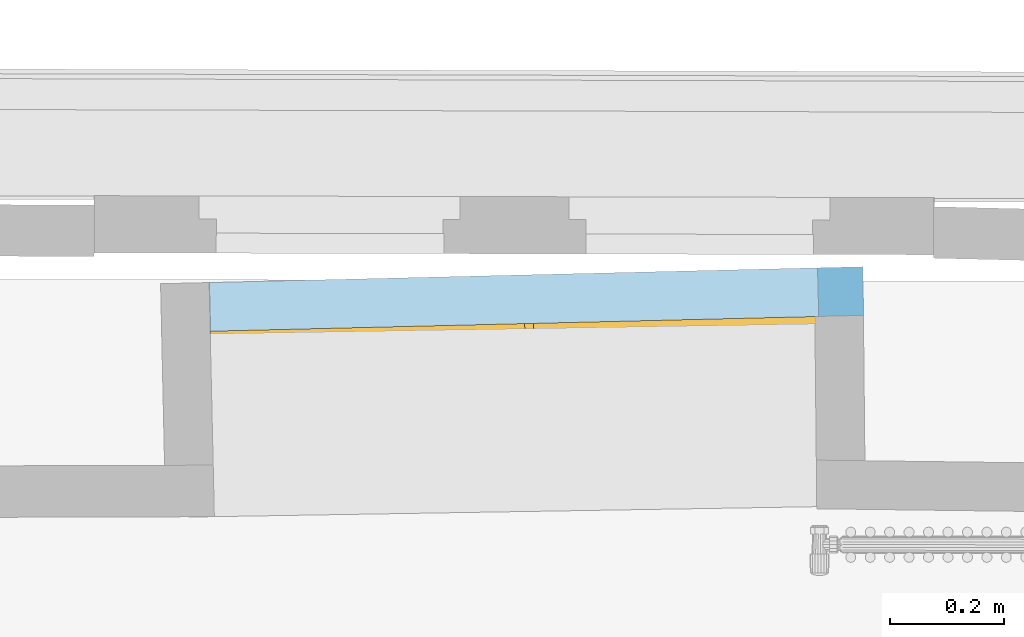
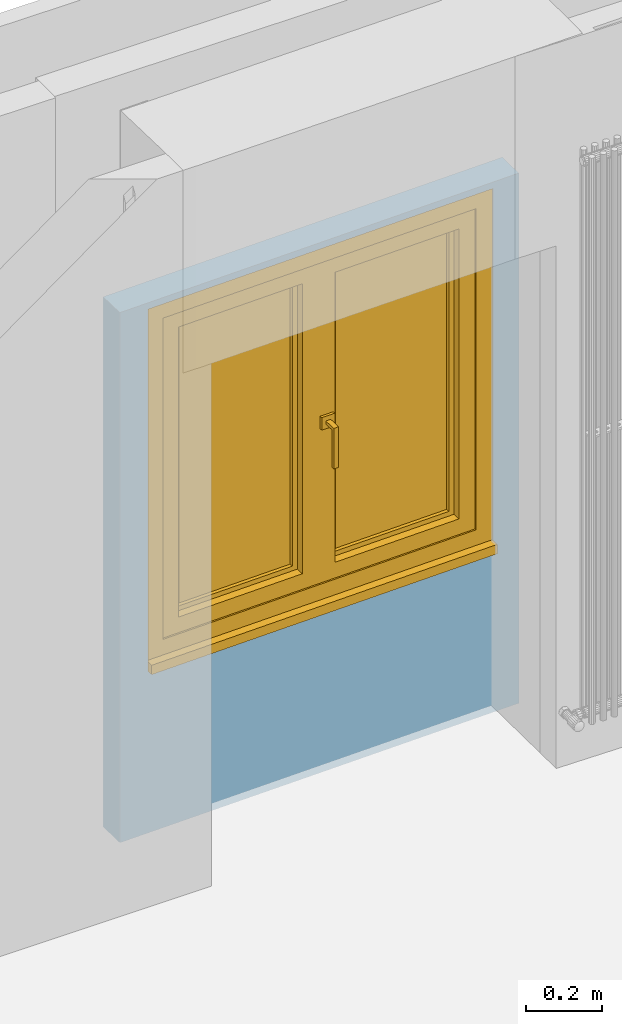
# One storey, part 62 of 72: 1 window, 1 opening, plus 1 element that does not belong to this part.
"""IFC2X3 building model written with IfcOpenShell, lengths in centimetres."""

from ifc_helpers import new_model, entity, si_unit, converted_unit, direction, frame, origin, origin_with_axes, place, context, subcontext, project, spatial, polyline, outline, extrude, faceted_brep, shape, material, material_list, layer, layer_set, layer_usage, type_object, element, fill, save


model = new_model("IFC2X3")

# Units and contexts
model_context = context("Model", 3, precision=0.0001, world=origin(), true_north=direction((0.225632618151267, 0.974212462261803, 0.0)))
body_context = subcontext(model_context, "Body", "Model", "MODEL_VIEW")
footprint_context = subcontext(model_context, "FootPrint", "Model", "MODEL_VIEW")
profile_context = subcontext(model_context, "Profile", "Model", "MODEL_VIEW")
ifc_project = project(units=[si_unit("LENGTHUNIT", "METRE", prefix="CENTI"), si_unit("AREAUNIT", "SQUARE_METRE", prefix="CENTI"), si_unit("VOLUMEUNIT", "CUBIC_METRE", prefix="CENTI"), converted_unit("PLANEANGLEUNIT", "DEGREE", entity("IfcRatioMeasure", 0.0174532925), si_unit("PLANEANGLEUNIT", "RADIAN"), dimensions=[0, 0, 0, 0, 0, 0, 0])], contexts=[model_context])

# Site, building, storey
site_placement = place(None, origin_with_axes())
site = spatial("IfcSite", under=ifc_project, at=site_placement, Name="Default Site", CompositionType="ELEMENT")
building_placement = place(site_placement, origin_with_axes())
building = spatial("IfcBuilding", under=site, at=building_placement, Name="Default Building", CompositionType="ELEMENT")
storey_placement = place(building_placement, frame((0.0, 0.0, 853.910374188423), z_axis=(0.0, 0.0, 1.0), x_axis=(1.0, 0.0, 0.0)))
storey = spatial("IfcBuildingStorey", under=building, at=storey_placement, Name="Niveau 2", CompositionType="ELEMENT", Elevation=853.910374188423)

# Wall, opening, window
ifc_material_1 = material(Name="<aucun>")
ifc_layer = layer(ifc_material_1, 8.5)
ifc_layer_set = layer_set([ifc_layer], Name="default")
ifc_layer_usage = layer_usage(ifc_layer_set, "AXIS2", "POSITIVE", -4.25)
wall_type = type_object("IfcWallType", Name="default 85", PredefinedType="NOTDEFINED", material=ifc_layer_set)
wall_placement = place(storey_placement, frame((33.8055025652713, 591.426042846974, 1.4210854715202e-12), z_axis=(0.0, 0.0, 1.0), x_axis=(0.999706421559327, 0.024229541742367, 0.0)))
wall = element("IfcWallStandardCase", 1, at=wall_placement, inside=storey, type_object=wall_type, material=ifc_layer_usage, Name="Enveloppe 163843", context=body_context, shape_type="SweptSolid", body=[
    extrude(outline(polyline([(1.34562991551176, 4.24999999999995), (1.32729831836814, -4.24999999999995), (124.049128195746, -4.25000000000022), (124.168477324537, 4.24999999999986), (1.34562991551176, 4.24999999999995)])), frame((0.0, 0.0, -8.88178419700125e-13), z_axis=(0.0, 0.0, 1.0), x_axis=(1.0, 0.0, 0.0)), (0.0, 0.0, 1.0), 170.0),
])
opening_placement = place(wall_placement, frame((9.89149371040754, 0.0, 54.9999999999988), z_axis=(0.0, 0.0, 1.0), x_axis=(-1.0, -4.16333634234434e-17, 0.0)))
cartesian_point_1 = entity("IfcCartesianPoint", [0.0, 8.88178419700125e-14, 113.0])
cartesian_point_2 = entity("IfcCartesianPoint", [-106.334699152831, -4.24999999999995])
opening = element("IfcOpeningElement", 2, at=opening_placement, cuts=wall, Name="4294966432_11", ObjectType="Opening", shapes=[
    shape(body_context, "Body", "SweptSolid", [extrude(outline(polyline([(0.0, 113.0), (0.0, -2.99999999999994), (106.334699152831, -2.99999999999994), (106.334699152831, 113.0), (0.0, 113.0)])), frame((0.0, -14.25, 0.0), z_axis=(0.0, 1.0, 0.0), x_axis=(-1.0, 0.0, 0.0)), (0.0, 0.0, 1.0), 28.5)]),
    shape(profile_context, "Profile", "GeometricCurveSet", [entity("IfcGeometricCurveSet", [entity("IfcPolyline", [cartesian_point_1, entity("IfcCartesianPoint", [0.0, 8.88178419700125e-14, 0.0]), entity("IfcCartesianPoint", [-106.334699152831, 8.88178419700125e-14, 0.0]), entity("IfcCartesianPoint", [-106.334699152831, 8.88178419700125e-14, 113.0]), cartesian_point_1])])]),
    shape(footprint_context, "FootPrint", "GeometricCurveSet", [entity("IfcGeometricCurveSet", [entity("IfcPolyline", [cartesian_point_2, entity("IfcCartesianPoint", [0.0, -4.24999999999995]), entity("IfcCartesianPoint", [0.0, 4.25000000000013]), entity("IfcCartesianPoint", [-106.334699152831, 4.25000000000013]), cartesian_point_2])])]),
])
ifc_material_2 = material(Name="Transparent")
ifc_material_3 = material(Name="Jaune 255-255-0")
ifc_material_4 = material(Name="Brèche oniciata")
ifc_material_5 = material(Name="Aluminium satiné")
ifc_material_list = material_list([ifc_material_2, ifc_material_3, ifc_material_4, ifc_material_5])
window_style = type_object("IfcWindowStyle", Name="FN[R] 2VB[1V] MM", ConstructionType="NOTDEFINED", OperationType="DOUBLE_PANEL_VERTICAL", ParameterTakesPrecedence=True, Sizeable=False, material=ifc_material_list)
window_placement = place(opening_placement, frame((-106.334699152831, -4.25, 0.0), z_axis=(0.0, 0.0, 1.0), x_axis=(1.0, 0.0, 0.0)))
window = element("IfcWindow", 3, at=window_placement, inside=storey, type_object=window_style, material=ifc_material_list, Name="Fenêtre 163845", OverallHeight=113.0, OverallWidth=106.334699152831, context=body_context, shape_type="Brep", body=[
    faceted_brep([(3.1462128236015e-06, -3.30878435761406e-06, -4.31537632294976e-06), (106.334698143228, 2.2949719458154e-06, -4.31537632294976e-06), (106.33470077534, 8.5000219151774, -4.31537632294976e-06), (106.334697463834, 10.4999873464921, -4.31537632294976e-06), (-3.4918960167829e-06, 10.4999818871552, -4.31537632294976e-06), (-3.15974784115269e-06, 8.50001652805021, -4.31537632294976e-06), (-3.15974784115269e-06, 8.50001652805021, -2.99997761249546), (-3.4918960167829e-06, 10.4999818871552, -2.99997761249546), (106.334697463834, 10.4999873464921, -2.99997761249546), (106.33470077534, 8.5000219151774, -2.99997761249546), (106.334698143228, 2.2949719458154e-06, -2.99997761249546), (3.1462128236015e-06, -3.30878435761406e-06, -2.99997761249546), (-3.15786633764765e-06, 10.4999818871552, -4.31537632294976e-06), (-3.15786633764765e-06, 10.4999818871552, -2.99997761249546), (106.334697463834, 10.4999817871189, -4.31537632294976e-06), (106.334697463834, 10.4999817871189, -2.99997761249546), (106.334697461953, 8.50002191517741, -4.31537632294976e-06), (106.334697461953, 8.50002191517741, -2.99997761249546), (106.334700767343, 2.29497194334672e-06, -4.31537632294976e-06), (106.334700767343, 2.29497194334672e-06, -2.99997761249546), (3.14621282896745e-06, 2.39500822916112e-06, -4.31537632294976e-06), (3.14621282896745e-06, 2.39500822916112e-06, -2.99997761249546), (3.15420937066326e-06, 8.50001652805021, -4.31537632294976e-06), (3.15420937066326e-06, 8.50001652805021, -2.99997761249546)], [[[0, 1, 2, 3, 4, 5]], [[6, 7, 8, 9, 10, 11]], [[5, 12, 13, 6]], [[4, 14, 15, 7]], [[3, 16, 17, 8]], [[2, 18, 19, 9]], [[1, 20, 21, 10]], [[0, 22, 23, 11]]]),
    faceted_brep([(101.334700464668, 8.9407060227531e-08, 108.000004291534), (101.334700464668, 7.99999991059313, 108.000004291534), (101.334700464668, 7.99999991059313, 5.00000007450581), (101.334700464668, 8.9407060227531e-08, 5.00000007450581), (106.334698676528, 7.99999991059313, 112.999999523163), (106.334698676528, 7.99999991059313, 1.77635683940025e-13), (106.334698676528, 8.9407060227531e-08, 112.999999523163), (106.334698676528, 8.9407060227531e-08, 1.77635683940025e-13), (101.334700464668, 8.94070602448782e-08, 108.000004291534), (101.334700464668, 8.94070602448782e-08, 5.00000007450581), (4.99999868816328, 7.99999991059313, 5.00000007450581), (4.99999868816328, 8.9407060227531e-08, 5.00000007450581), (4.76302630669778e-07, 7.99999991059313, 1.77635683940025e-13), (4.76302630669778e-07, 8.9407060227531e-08, 1.77635683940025e-13), (4.99999868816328, 8.94070605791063e-08, 5.00000007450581), (4.76302630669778e-07, 8.94070605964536e-08, 1.77635683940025e-13), (4.99999868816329, 7.99999991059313, 108.000004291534), (4.99999868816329, 8.9407060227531e-08, 108.000004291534), (4.76302630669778e-07, 7.99999991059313, 112.999999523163), (4.99999868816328, 7.99999991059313, 108.000004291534), (4.76302630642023e-07, 8.9407060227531e-08, 1.77635683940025e-13), (4.76302630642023e-07, 8.9407060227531e-08, 112.999999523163), (4.99999868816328, 8.94070602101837e-08, 5.00000007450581), (4.99999868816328, 8.94070602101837e-08, 108.000004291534), (4.76302630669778e-07, 8.9407060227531e-08, 112.999999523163), (4.99999868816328, 8.9407060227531e-08, 108.000004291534), (101.334700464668, 8.94070598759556e-08, 108.000004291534), (106.334698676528, 8.94070598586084e-08, 112.999999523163)], [[[0, 1, 2, 3]], [[1, 4, 5, 2]], [[4, 6, 7, 5]], [[6, 8, 9, 7]], [[3, 2, 10, 11]], [[2, 5, 12, 10]], [[5, 7, 13, 12]], [[7, 9, 14, 15]], [[11, 10, 16, 17]], [[10, 12, 18, 19]], [[12, 20, 21, 18]], [[13, 22, 23, 24]], [[25, 19, 1, 0]], [[19, 18, 4, 1]], [[18, 24, 6, 4]], [[24, 23, 26, 27]]]),
    faceted_brep([(97.3346983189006, 0.499999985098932, 103.999996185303), (96.3346988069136, 1.4999994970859, 102.999997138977), (96.3346988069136, 1.49999949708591, 10.0000001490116), (97.3346983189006, 0.49999998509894, 9.00000035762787), (96.3346992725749, 1.49999996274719, 102.999997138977), (96.3346992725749, 7.50000001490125, 102.999997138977), (96.3346992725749, 7.50000001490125, 10.0000001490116), (96.3346992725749, 1.49999996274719, 10.0000001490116), (101.334700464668, 7.50000001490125, 108.000004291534), (101.334700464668, 7.50000001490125, 5.00000007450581), (101.334700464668, 0.499999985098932, 108.000004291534), (101.334700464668, 0.499999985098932, 5.00000007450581), (97.3346983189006, 0.499999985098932, 9.00000035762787), (96.3346992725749, 1.49999986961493, 10.0000002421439), (58.1673496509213, 1.49999986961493, 10.0000002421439), (57.1673494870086, 0.499999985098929, 9.00000035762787), (58.1673496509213, 7.50000001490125, 10.0000001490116), (58.1673496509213, 1.49999996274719, 10.0000001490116), (53.1673495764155, 7.50000001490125, 5.00000007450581), (53.1673495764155, 0.499999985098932, 5.00000007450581), (57.1673494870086, 0.499999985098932, 9.00000035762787), (58.1673495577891, 1.50000005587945, 10.0000001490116), (58.1673495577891, 1.50000005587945, 102.999997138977), (57.1673494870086, 0.499999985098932, 103.999996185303), (58.1673496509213, 7.50000001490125, 102.999997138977), (58.1673496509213, 1.49999996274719, 102.999997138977), (53.1673495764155, 7.50000001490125, 108.000004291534), (53.1673495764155, 0.499999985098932, 108.000004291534), (58.1673496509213, 1.4999994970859, 102.999996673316), (96.3346992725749, 1.4999994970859, 102.999996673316)], [[[0, 1, 2, 3]], [[4, 5, 6, 7]], [[5, 8, 9, 6]], [[8, 10, 11, 9]], [[10, 0, 12, 11]], [[12, 13, 14, 15]], [[7, 6, 16, 17]], [[6, 9, 18, 16]], [[9, 11, 19, 18]], [[11, 12, 20, 19]], [[20, 21, 22, 23]], [[17, 16, 24, 25]], [[16, 18, 26, 24]], [[18, 19, 27, 26]], [[19, 20, 23, 27]], [[23, 28, 29, 0]], [[25, 24, 5, 4]], [[24, 26, 8, 5]], [[26, 27, 10, 8]], [[27, 23, 0, 10]]]),
    faceted_brep([(94.8346977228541, 3.00000002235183, 101.499998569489), (94.3346979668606, 3.49999977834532, 100.999999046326), (94.3346979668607, 3.49999977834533, 11.9999997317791), (94.8346977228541, 3.00000002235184, 11.5000002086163), (94.3346981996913, 3.50000001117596, 100.999999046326), (94.3346981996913, 4.49999998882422, 100.999999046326), (94.3346981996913, 4.49999998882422, 11.9999997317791), (94.3346981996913, 3.50000001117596, 11.9999997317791), (94.8346979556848, 4.99999974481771, 101.499998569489), (94.8346979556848, 4.9999997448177, 11.5000002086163), (94.3346981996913, 4.49999998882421, 11.9999997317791), (94.8346977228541, 4.99999997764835, 101.499998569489), (96.3346992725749, 4.99999997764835, 102.999997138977), (96.3346992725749, 4.99999997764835, 10.0000001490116), (94.8346977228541, 4.99999997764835, 11.5000002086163), (96.3346992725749, 3.00000002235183, 102.999997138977), (96.3346992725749, 3.00000002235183, 10.0000001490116), (94.8346977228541, 3.00000002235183, 11.5000002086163), (94.3346981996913, 3.49999977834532, 11.9999999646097), (60.1673496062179, 3.49999977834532, 11.9999999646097), (59.667349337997, 3.00000002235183, 11.5000002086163), (60.1673496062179, 4.49999998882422, 11.9999997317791), (60.1673496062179, 3.50000001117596, 11.9999997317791), (94.8346977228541, 4.99999974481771, 11.4999999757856), (59.667349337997, 4.99999974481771, 11.4999999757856), (58.1673496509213, 4.99999997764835, 10.0000001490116), (59.667349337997, 4.99999997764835, 11.5000002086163), (58.1673496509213, 3.00000002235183, 10.0000001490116), (60.1673494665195, 3.50000015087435, 11.9999997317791), (60.1673494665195, 3.50000015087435, 100.999999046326), (59.667349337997, 3.00000002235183, 101.499998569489), (60.1673496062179, 4.49999998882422, 100.999999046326), (60.1673496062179, 3.50000001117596, 100.999999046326), (59.6673494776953, 5.00000011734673, 11.5000002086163), (59.6673494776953, 5.00000011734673, 101.499998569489), (58.1673496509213, 4.99999997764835, 102.999997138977), (59.667349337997, 4.99999997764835, 101.499998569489), (58.1673496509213, 3.00000002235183, 102.999997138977), (60.1673496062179, 3.49999977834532, 100.999998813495), (94.3346981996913, 3.49999977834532, 100.999998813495), (59.667349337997, 4.99999974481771, 101.499998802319), (94.8346977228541, 4.9999997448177, 101.499998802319), (94.3346981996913, 4.49999998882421, 100.999999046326)], [[[0, 1, 2, 3]], [[4, 5, 6, 7]], [[5, 8, 9, 10]], [[11, 12, 13, 14]], [[12, 15, 16, 13]], [[15, 0, 17, 16]], [[17, 18, 19, 20]], [[7, 6, 21, 22]], [[6, 23, 24, 21]], [[14, 13, 25, 26]], [[13, 16, 27, 25]], [[16, 17, 20, 27]], [[20, 28, 29, 30]], [[22, 21, 31, 32]], [[21, 33, 34, 31]], [[26, 25, 35, 36]], [[25, 27, 37, 35]], [[27, 20, 30, 37]], [[30, 38, 39, 0]], [[32, 31, 5, 4]], [[31, 40, 41, 42]], [[36, 35, 12, 11]], [[35, 37, 15, 12]], [[37, 30, 0, 15]]]),
    faceted_brep([(60.1673496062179, 3.50000001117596, 100.999999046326), (60.1673496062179, 3.50000001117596, 11.9999997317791), (94.3346981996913, 3.50000001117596, 11.9999997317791), (94.3346981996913, 3.50000001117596, 100.999999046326), (94.3346981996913, 4.49999998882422, 100.999999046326), (94.3346981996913, 4.49999998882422, 11.9999997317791), (60.1673496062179, 4.49999998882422, 11.9999997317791), (60.1673496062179, 4.49999998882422, 100.999999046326), (60.1673496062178, 3.50000001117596, 100.999999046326), (60.1673496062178, 4.49999998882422, 100.999999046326)], [[[0, 1, 2, 3]], [[4, 5, 6, 7]], [[3, 2, 5, 4]], [[2, 1, 6, 5]], [[1, 8, 9, 6]], [[0, 3, 4, 7]]]),
    faceted_brep([(49.1673496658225, 0.499999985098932, 103.999996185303), (48.167349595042, 1.50000005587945, 102.999997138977), (48.167349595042, 1.50000005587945, 10.0000001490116), (49.1673496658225, 0.49999998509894, 9.00000035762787), (48.1673495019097, 1.49999996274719, 102.999997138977), (48.1673495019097, 7.50000001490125, 102.999997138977), (48.1673495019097, 7.50000001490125, 10.0000001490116), (48.1673495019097, 1.49999996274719, 10.0000001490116), (53.1673495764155, 7.50000001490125, 108.000004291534), (53.1673495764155, 7.50000001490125, 5.00000007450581), (53.1673495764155, 0.499999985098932, 108.000004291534), (53.1673495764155, 0.499999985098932, 5.00000007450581), (49.1673496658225, 0.499999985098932, 9.00000035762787), (48.1673495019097, 1.49999986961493, 10.0000002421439), (9.99999988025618, 1.49999986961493, 10.0000002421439), (9.00000083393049, 0.499999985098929, 9.00000035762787), (9.99999988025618, 7.50000001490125, 10.0000001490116), (9.99999988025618, 1.49999996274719, 10.0000001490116), (4.99999868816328, 7.50000001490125, 5.00000007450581), (4.99999868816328, 0.499999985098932, 5.00000007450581), (9.00000083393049, 0.499999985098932, 9.00000035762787), (10.0000003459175, 1.4999994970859, 10.0000001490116), (10.0000003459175, 1.4999994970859, 102.999997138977), (9.0000008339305, 0.499999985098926, 103.999996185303), (9.99999988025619, 7.50000001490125, 102.999997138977), (9.99999988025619, 1.49999996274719, 102.999997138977), (4.99999868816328, 7.50000001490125, 108.000004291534), (9.99999988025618, 7.50000001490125, 102.999997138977), (4.99999868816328, 0.499999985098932, 108.000004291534), (9.00000083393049, 0.499999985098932, 103.999996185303), (9.99999988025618, 1.4999994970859, 102.999996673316), (48.1673495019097, 1.4999994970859, 102.999996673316), (9.99999988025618, 1.49999996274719, 102.999997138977)], [[[0, 1, 2, 3]], [[4, 5, 6, 7]], [[5, 8, 9, 6]], [[8, 10, 11, 9]], [[10, 0, 12, 11]], [[12, 13, 14, 15]], [[7, 6, 16, 17]], [[6, 9, 18, 16]], [[9, 11, 19, 18]], [[11, 12, 20, 19]], [[20, 21, 22, 23]], [[17, 16, 24, 25]], [[16, 18, 26, 27]], [[18, 19, 28, 26]], [[19, 20, 29, 28]], [[29, 30, 31, 0]], [[32, 27, 5, 4]], [[27, 26, 8, 5]], [[26, 28, 10, 8]], [[28, 29, 0, 10]]]),
    faceted_brep([(48.6673493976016, 7.50000001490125, 58.4999978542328), (48.6673493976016, 7.50000001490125, 54.5000016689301), (52.6673495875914, 7.50000001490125, 54.5000016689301), (52.6673495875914, 7.50000001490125, 58.4999978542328), (52.6673495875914, 8.30000014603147, 58.4999978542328), (52.6673495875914, 8.30000014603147, 54.5000016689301), (48.6673493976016, 8.30000014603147, 54.5000016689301), (48.6673493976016, 8.30000014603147, 58.4999978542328)], [[[0, 1, 2, 3]], [[4, 5, 6, 7]], [[3, 2, 5, 4]], [[2, 1, 6, 5]], [[1, 0, 7, 6]], [[0, 3, 4, 7]]]),
    faceted_brep([(49.9173496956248, 8.30000014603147, 56.9999992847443), (49.9173496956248, 8.30000014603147, 56.0000002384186), (51.417349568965, 8.30000014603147, 56.0000002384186), (51.417349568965, 8.30000014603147, 56.9999992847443), (51.417349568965, 12.2999996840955, 56.9999992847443), (51.417349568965, 11.3000002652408, 55.9999998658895), (49.9173496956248, 11.3000002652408, 55.9999998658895), (49.9173496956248, 12.2999996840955, 56.9999992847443), (51.417349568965, 11.2999998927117, 56.0000002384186), (49.9173496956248, 11.2999998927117, 56.0000002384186)], [[[0, 1, 2, 3]], [[4, 5, 6, 7]], [[3, 2, 8, 4]], [[2, 1, 9, 8]], [[1, 0, 7, 9]], [[0, 3, 4, 7]]]),
    faceted_brep([(49.9173496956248, 12.2999996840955, 56.9999992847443), (49.9173496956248, 11.3000002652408, 55.9999998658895), (51.417349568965, 11.3000002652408, 55.9999998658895), (51.417349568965, 12.2999996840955, 56.9999992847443), (51.417349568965, 12.2999996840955, 43.9999997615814), (51.417349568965, 11.2999998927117, 43.9999997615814), (49.9173496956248, 11.2999998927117, 43.9999997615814), (49.9173496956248, 12.2999996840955, 43.9999997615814), (51.417349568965, 11.2999998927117, 56.0000002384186), (49.9173496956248, 11.2999998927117, 56.0000002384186)], [[[0, 1, 2, 3]], [[4, 5, 6, 7]], [[3, 8, 5, 4]], [[8, 9, 6, 5]], [[9, 0, 7, 6]], [[0, 3, 4, 7]]]),
    faceted_brep([(46.6673498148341, 3.00000002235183, 101.499998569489), (46.1673496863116, 3.50000015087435, 100.999999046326), (46.1673496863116, 3.50000015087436, 11.9999997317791), (46.6673498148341, 3.00000002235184, 11.5000002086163), (46.1673495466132, 3.50000001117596, 100.999999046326), (46.1673495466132, 4.49999998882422, 100.999999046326), (46.1673495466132, 4.49999998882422, 11.9999997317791), (46.1673495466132, 3.50000001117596, 11.9999997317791), (46.6673496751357, 5.00000011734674, 101.499998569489), (46.6673496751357, 5.00000011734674, 11.5000002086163), (46.6673498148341, 4.99999997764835, 101.499998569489), (48.1673495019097, 4.99999997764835, 102.999997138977), (48.1673495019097, 4.99999997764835, 10.0000001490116), (46.6673498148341, 4.99999997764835, 11.5000002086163), (48.1673495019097, 3.00000002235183, 102.999997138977), (48.1673495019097, 3.00000002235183, 10.0000001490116), (46.6673498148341, 3.00000002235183, 11.5000002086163), (46.1673495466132, 3.49999977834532, 11.9999999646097), (12.0000009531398, 3.49999977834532, 11.9999999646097), (11.5000014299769, 3.00000002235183, 11.5000002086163), (12.0000009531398, 4.49999998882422, 11.9999997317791), (12.0000009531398, 3.50000001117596, 11.9999997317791), (46.6673498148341, 4.99999974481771, 11.4999999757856), (11.5000014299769, 4.99999974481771, 11.4999999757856), (9.99999988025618, 4.99999997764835, 10.0000001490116), (11.5000014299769, 4.99999997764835, 11.5000002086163), (9.99999988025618, 3.00000002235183, 10.0000001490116), (12.0000011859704, 3.49999977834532, 11.9999997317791), (12.0000011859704, 3.49999977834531, 100.999999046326), (11.5000014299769, 3.00000002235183, 101.499998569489), (12.0000009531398, 4.49999998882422, 100.999999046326), (12.0000009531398, 3.50000001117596, 100.999999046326), (11.5000011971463, 4.99999974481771, 11.5000002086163), (11.5000011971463, 4.99999974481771, 101.499998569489), (9.99999988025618, 4.99999997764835, 102.999997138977), (11.5000014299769, 4.99999997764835, 101.499998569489), (9.99999988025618, 3.00000002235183, 102.999997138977), (12.0000009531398, 3.49999977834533, 100.999998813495), (46.1673495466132, 3.49999977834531, 100.999998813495), (11.5000014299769, 4.99999974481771, 101.499998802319), (46.6673498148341, 4.99999974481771, 101.499998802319)], [[[0, 1, 2, 3]], [[4, 5, 6, 7]], [[5, 8, 9, 6]], [[10, 11, 12, 13]], [[11, 14, 15, 12]], [[14, 0, 16, 15]], [[16, 17, 18, 19]], [[7, 6, 20, 21]], [[6, 22, 23, 20]], [[13, 12, 24, 25]], [[12, 15, 26, 24]], [[15, 16, 19, 26]], [[19, 27, 28, 29]], [[21, 20, 30, 31]], [[20, 32, 33, 30]], [[25, 24, 34, 35]], [[24, 26, 36, 34]], [[26, 19, 29, 36]], [[29, 37, 38, 0]], [[31, 30, 5, 4]], [[30, 39, 40, 5]], [[35, 34, 11, 10]], [[34, 36, 14, 11]], [[36, 29, 0, 14]]]),
    faceted_brep([(12.0000009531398, 3.50000001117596, 100.999999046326), (12.0000009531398, 3.50000001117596, 11.9999997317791), (46.1673495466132, 3.50000001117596, 11.9999997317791), (46.1673495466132, 3.50000001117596, 100.999999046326), (46.1673495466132, 4.49999998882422, 100.999999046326), (46.1673495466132, 4.49999998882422, 11.9999997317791), (12.0000009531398, 4.49999998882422, 11.9999997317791), (12.0000009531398, 4.49999998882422, 100.999999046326)], [[[0, 1, 2, 3]], [[4, 5, 6, 7]], [[3, 2, 5, 4]], [[2, 1, 6, 5]], [[1, 0, 7, 6]], [[0, 3, 4, 7]]]),
])
fill(opening, window)

save(model, "model.ifc")
